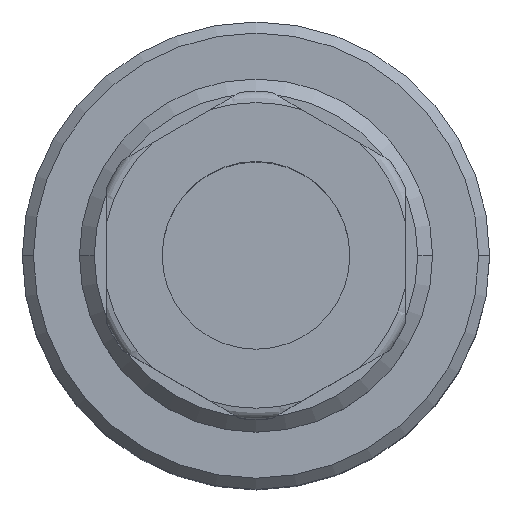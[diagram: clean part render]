
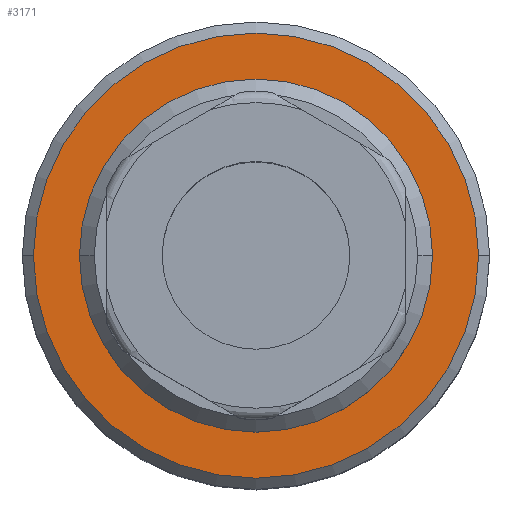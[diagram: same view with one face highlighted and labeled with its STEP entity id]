
A CAD part, top view. The second image highlights one B-rep face of the part: STEP entity #3171.
In plain terms, the highlighted planar face has unit normal (0, 0, 1).
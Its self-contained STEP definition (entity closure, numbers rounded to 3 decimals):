
#2983=CARTESIAN_POINT('Vertex',(-23.8,0.,-5.8)) ;
#2986=CARTESIAN_POINT('Axis2P3D Location',(0.,0.,-5.8)) ;
#2990=CARTESIAN_POINT('Vertex',(23.8,0.,-5.8)) ;
#3012=CARTESIAN_POINT('Axis2P3D Location',(0.,0.,-5.8)) ;
#3144=CARTESIAN_POINT('Axis2P3D Location',(0.,0.,-5.8)) ;
#3149=CARTESIAN_POINT('Axis2P3D Location',(0.,0.,-5.8)) ;
#3153=CARTESIAN_POINT('Vertex',(-30.,0.,-5.8)) ;
#3155=CARTESIAN_POINT('Vertex',(30.,0.,-5.8)) ;
#3158=CARTESIAN_POINT('Axis2P3D Location',(0.,0.,-5.8)) ;
#2987=DIRECTION('Axis2P3D Direction',(0.,0.,-1.)) ;
#3013=DIRECTION('Axis2P3D Direction',(0.,0.,-1.)) ;
#3145=DIRECTION('Axis2P3D Direction',(0.,0.,-1.)) ;
#3146=DIRECTION('Axis2P3D XDirection',(1.,0.,0.)) ;
#3150=DIRECTION('Axis2P3D Direction',(0.,0.,-1.)) ;
#3159=DIRECTION('Axis2P3D Direction',(0.,0.,-1.)) ;
#2988=AXIS2_PLACEMENT_3D('Circle Axis2P3D',#2986,#2987,$) ;
#3014=AXIS2_PLACEMENT_3D('Circle Axis2P3D',#3012,#3013,$) ;
#3147=AXIS2_PLACEMENT_3D('Plane Axis2P3D',#3144,#3145,#3146) ;
#3151=AXIS2_PLACEMENT_3D('Circle Axis2P3D',#3149,#3150,$) ;
#3160=AXIS2_PLACEMENT_3D('Circle Axis2P3D',#3158,#3159,$) ;
#3164=ORIENTED_EDGE('',*,*,#3157,.F.) ;
#3165=ORIENTED_EDGE('',*,*,#3162,.F.) ;
#3168=ORIENTED_EDGE('',*,*,#3016,.T.) ;
#3169=ORIENTED_EDGE('',*,*,#2992,.T.) ;
#3170=FACE_BOUND('',#3167,.T.) ;
#3171=ADVANCED_FACE('PartBody',(#3166,#3170),#3148,.F.) ;
#2989=CIRCLE('generated circle',#2988,23.8) ;
#3015=CIRCLE('generated circle',#3014,23.8) ;
#3152=CIRCLE('generated circle',#3151,30.) ;
#3161=CIRCLE('generated circle',#3160,30.) ;
#2992=EDGE_CURVE('',#2991,#2984,#2989,.T.) ;
#3016=EDGE_CURVE('',#2984,#2991,#3015,.T.) ;
#3157=EDGE_CURVE('',#3154,#3156,#3152,.T.) ;
#3162=EDGE_CURVE('',#3156,#3154,#3161,.T.) ;
#3163=EDGE_LOOP('',(#3164,#3165)) ;
#3167=EDGE_LOOP('',(#3168,#3169)) ;
#3166=FACE_OUTER_BOUND('',#3163,.T.) ;
#3148=PLANE('',#3147) ;
#2984=VERTEX_POINT('',#2983) ;
#2991=VERTEX_POINT('',#2990) ;
#3154=VERTEX_POINT('',#3153) ;
#3156=VERTEX_POINT('',#3155) ;
